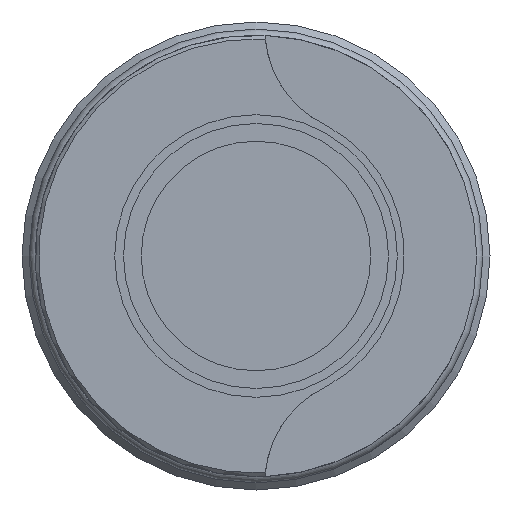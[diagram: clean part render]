
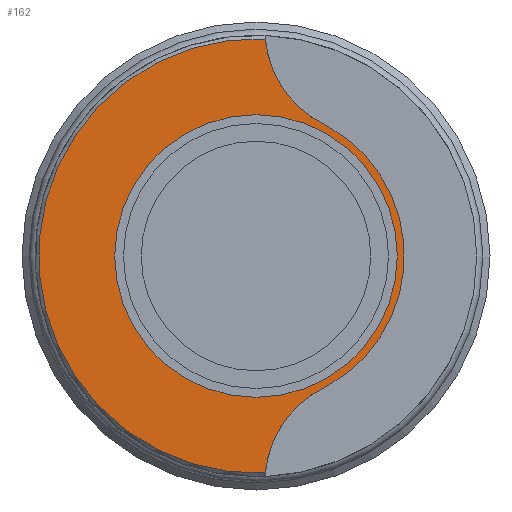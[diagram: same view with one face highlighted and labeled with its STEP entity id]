
A CAD part, left-side view. The second image highlights one B-rep face of the part: STEP entity #162.
In plain terms, the highlighted planar face has unit normal (-1, 0, 0).
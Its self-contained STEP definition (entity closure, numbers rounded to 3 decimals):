
#162 = ADVANCED_FACE( '', ( #344, #345 ), #346, .F. );
#344 = FACE_OUTER_BOUND( '', #521, .T. );
#345 = FACE_BOUND( '', #522, .T. );
#346 = PLANE( '', #523 );
#521 = EDGE_LOOP( '', ( #886, #887, #888, #889 ) );
#522 = EDGE_LOOP( '', ( #890 ) );
#523 = AXIS2_PLACEMENT_3D( '', #891, #892, #893 );
#886 = ORIENTED_EDGE( '', *, *, #970, .F. );
#887 = ORIENTED_EDGE( '', *, *, #957, .T. );
#888 = ORIENTED_EDGE( '', *, *, #944, .F. );
#889 = ORIENTED_EDGE( '', *, *, #1013, .T. );
#890 = ORIENTED_EDGE( '', *, *, #1037, .T. );
#891 = CARTESIAN_POINT( '', ( 0., 8., 0. ) );
#892 = DIRECTION( '', ( 1., 0., 0. ) );
#893 = DIRECTION( '', ( 0., 0., -1. ) );
#944 = EDGE_CURVE( '', #1110, #1111, #1112, .T. );
#957 = EDGE_CURVE( '', #1131, #1111, #1132, .T. );
#970 = EDGE_CURVE( '', #1131, #1152, #1153, .T. );
#1013 = EDGE_CURVE( '', #1110, #1152, #1216, .T. );
#1037 = EDGE_CURVE( '', #1244, #1244, #1245, .T. );
#1110 = VERTEX_POINT( '', #1330 );
#1111 = VERTEX_POINT( '', #1331 );
#1112 = CIRCLE( '', #1332, 8.4 );
#1131 = VERTEX_POINT( '', #1360 );
#1132 = CIRCLE( '', #1361, 6. );
#1152 = VERTEX_POINT( '', #1388 );
#1153 = CIRCLE( '', #1389, 12.3 );
#1216 = CIRCLE( '', #1482, 6. );
#1244 = VERTEX_POINT( '', #1517 );
#1245 = CIRCLE( '', #1518, 8. );
#1330 = CARTESIAN_POINT( '', ( 0., -4.01, 7.381 ) );
#1331 = CARTESIAN_POINT( '', ( 0., -4.01, -7.381 ) );
#1332 = AXIS2_PLACEMENT_3D( '', #1587, #1588, #1589 );
#1360 = CARTESIAN_POINT( '', ( 0., -0.525, -12.289 ) );
#1361 = AXIS2_PLACEMENT_3D( '', #1599, #1600, #1601 );
#1388 = CARTESIAN_POINT( '', ( 0., -0.525, 12.289 ) );
#1389 = AXIS2_PLACEMENT_3D( '', #1615, #1616, #1617 );
#1482 = AXIS2_PLACEMENT_3D( '', #1664, #1665, #1666 );
#1517 = CARTESIAN_POINT( '', ( 0., 0., -8. ) );
#1518 = AXIS2_PLACEMENT_3D( '', #1686, #1687, #1688 );
#1587 = CARTESIAN_POINT( '', ( 0., 0., 0. ) );
#1588 = DIRECTION( '', ( 1., 0., 0. ) );
#1589 = DIRECTION( '', ( 0., 0., -1. ) );
#1599 = CARTESIAN_POINT( '', ( 0., -6.5, -12.84 ) );
#1600 = DIRECTION( '', ( 1., 0., 0. ) );
#1601 = DIRECTION( '', ( 0., 0., -1. ) );
#1615 = CARTESIAN_POINT( '', ( 0., 0., 0. ) );
#1616 = DIRECTION( '', ( 1., 0., 0. ) );
#1617 = DIRECTION( '', ( 0., 0., -1. ) );
#1664 = CARTESIAN_POINT( '', ( 0., -6.5, 12.84 ) );
#1665 = DIRECTION( '', ( 1., 0., 0. ) );
#1666 = DIRECTION( '', ( 0., 0., -1. ) );
#1686 = CARTESIAN_POINT( '', ( 0., 0., 0. ) );
#1687 = DIRECTION( '', ( 1., 0., 0. ) );
#1688 = DIRECTION( '', ( 0., 0., -1. ) );
